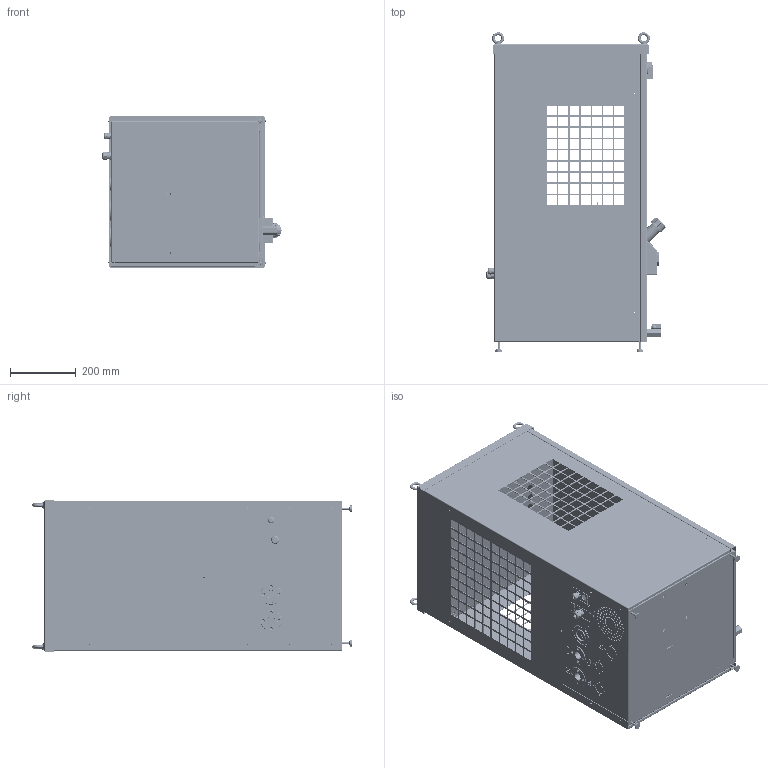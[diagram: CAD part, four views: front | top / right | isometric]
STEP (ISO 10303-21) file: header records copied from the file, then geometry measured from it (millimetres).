
FILE_DESCRIPTION (( 'STEP AP214' ), '1' );
FILE_NAME ('50-1C-00006.STEP', '2018-12-11T09:12:23', ( 'Utente' ), ( 'Microsoft' ), 'SwSTEP 2.0', 'SolidWorks 2013', '' );
FILE_SCHEMA (( 'AUTOMOTIVE_DESIGN' ));
Length unit declared in the file: millimetre
Products named in the file (30): TE-EL-00007 - EW_971_230V; AN-PI-00008_ANTIVIBR. TIPO PIEDE 20x15h M6; PG 13.5_Cable-Gland-1.209.1300.14-Nelco; PG 13.5_1_Socket-1.209.1300.14-Nelco; VR-1C-00015_002; PG 13.5_2_Nut-PA-Grey-24-24-27-Nelco; VR-1C-00014_002; SELETTORE_PICCOLO; VR-1C-00037_003; MA-N1-00001_MANOMETRO ACQUA 40mm 0-12 BAR; VR-1C-00018_003; VR-1C-00017_003; ST-AT-00021_002; CR-1C-00028_002; VA-A5-00001; CR-1C-00025_001; TAPPO 1P  FEM ; CR-1C-00026_001; IN-VI-00001; VR-1C-00013_001; SE-RP-00039_000; CR-1C-00027_004; INSERTO ESAG  1G; SE-RP-00039_000_CORPO; 50-1C-00006; pg 9_Cable-Gland-1.209.0900.14-Nelco; PG 9_2_Nut-PA-Grey-19-19-22-Nelco; PG 9_1_Socket-1.209.0900.14-Nelco; TA-RG-00041; GOLFARE M8
Assembly tree (36 placements, depth 3):
  50-1C-00006
    CR-1C-00027_004
    VR-1C-00013_001
    CR-1C-00026_001
    CR-1C-00025_001
    CR-1C-00028_002
    VR-1C-00017_003
    VR-1C-00018_003
    VR-1C-00037_003
    VR-1C-00014_002
    VR-1C-00015_002
    AN-PI-00008_ANTIVIBR. TIPO PIEDE 20x15h M6  x4
    TE-EL-00007 - EW_971_230V
    GOLFARE M8  x4
    TA-RG-00041
    pg 9_Cable-Gland-1.209.0900.14-Nelco
      PG 9_1_Socket-1.209.0900.14-Nelco
      PG 9_2_Nut-PA-Grey-19-19-22-Nelco
    SE-RP-00039_000
      SE-RP-00039_000_CORPO
      INSERTO ESAG  1G
    IN-VI-00001
    TAPPO 1P  FEM 
    VA-A5-00001
    ST-AT-00021_002  x2
    MA-N1-00001_MANOMETRO ACQUA 40mm 0-12 BAR
    SELETTORE_PICCOLO
    PG 13.5_Cable-Gland-1.209.1300.14-Nelco
      PG 13.5_2_Nut-PA-Grey-24-24-27-Nelco
      PG 13.5_1_Socket-1.209.1300.14-Nelco
Bounding box: 544.01 x 968.5 x 460 mm (x, y, z)
Volume: 5602834.8 mm3; surface area: 6565517.6 mm2
Topology: 153 solids, 153 shells, 6214 faces, 16158 edges, 10304 vertices
Faces by surface type: plane 3889, cylinder 1425, bspline 358, cone 345, torus 150, sphere 47
Entity records: 218841 total; most frequent: CARTESIAN_POINT 55783, ORIENTED_EDGE 31654, DIRECTION 29038, EDGE_CURVE 15827, VECTOR 11288, LINE 11288, VERTEX_POINT 10124, AXIS2_PLACEMENT_3D 8875
